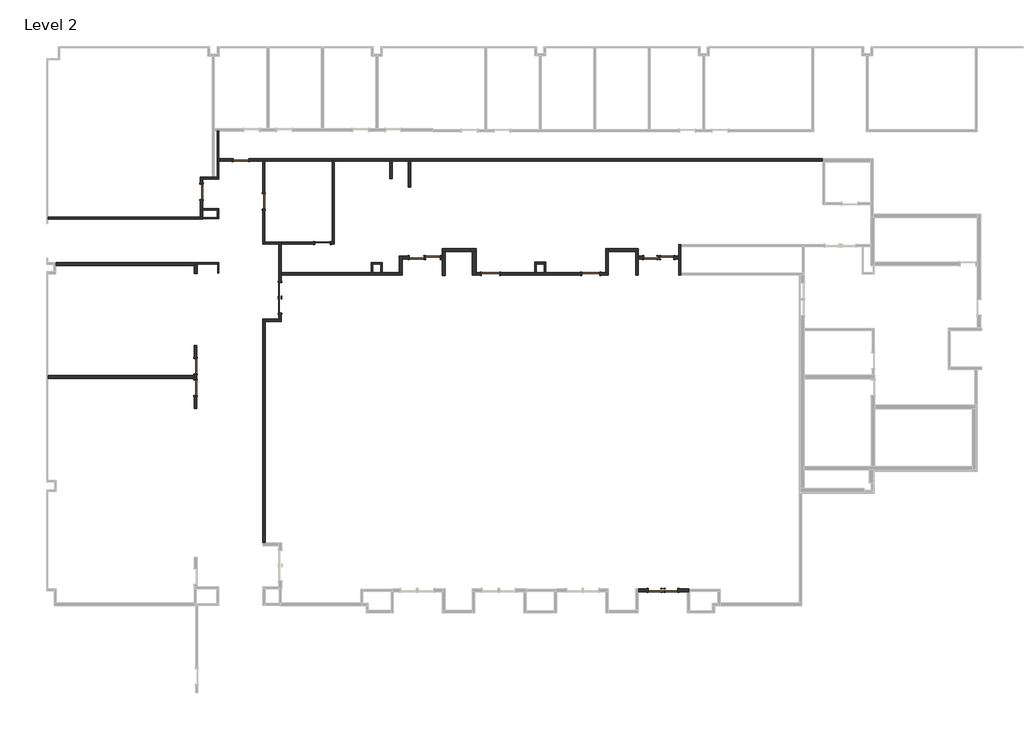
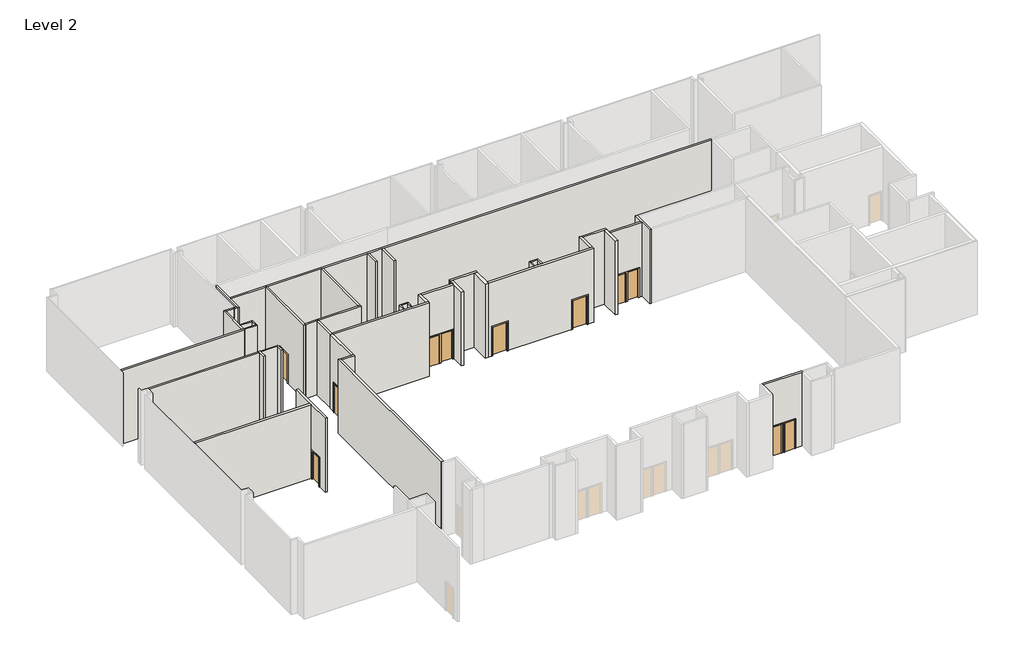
# One storey, part 5 of 9: 45 walls, 16 doors.
"""IFC4 building model written with IfcOpenShell, lengths in millimetres."""

from ifc_helpers import new_model, si_unit, frame, origin, place, context, project, spatial, polyline, outline, extrude, faceted_brep, transform, mapped, element, save
from components import door_7c9e1b45, door_3b0d1d25, door_8244bb97, door_1264ff72, door_5d800252, door_fe0b3fde

model = new_model("IFC4")

# Units and contexts
model_context = context("Model", 3, world=origin())
ifc_project = project(units=[si_unit("LENGTHUNIT", "METRE", prefix="MILLI")], contexts=[model_context])

# Site, building, storey
site = spatial("IfcSite", under=ifc_project)
building = spatial("IfcBuilding", under=site)
storey = spatial("IfcBuildingStorey", under=building, Name="Level 2", Elevation=5486.4)

# Doors
placement = place(None, origin())
door_shape = door_7c9e1b45(model_context)
element("IfcDoor", 1, ObjectType="Single-Flush : 34\" x 84\"", at=placement, inside=storey, context=model_context, shape_type="MappedRepresentation", body=[
    mapped(door_shape, transform((11955.7879373, 26887.2955722, 5486.4), x_axis=(1.0, 0.0, 0.0), y_axis=(0.0, 1.0, 0.0), z_axis=(0.0, 0.0, 1.0))),
])
element("IfcDoor", 2, ObjectType="Single-Flush : 34\" x 84\"", at=placement, inside=storey, context=model_context, shape_type="MappedRepresentation", body=[
    mapped(door_shape, transform((7386.1691873, 31538.6706078, 5486.4), x_axis=(-1.0, 0.0, 0.0), y_axis=(0.0, -1.0, 0.0), z_axis=(0.0, 0.0, 1.0))),
])
door_2_shape = door_3b0d1d25(model_context)
element("IfcDoor", 3, ObjectType="Single-Flush : 34\" x 84\"", at=placement, inside=storey, context=model_context, shape_type="MappedRepresentation", body=[
    mapped(door_2_shape, transform((8663.3129373, 29212.98309, 5486.4), x_axis=(0.0, 1.0, 0.0), y_axis=(-1.0, 0.0, 0.0), z_axis=(0.0, 0.0, 1.0))),
])
element("IfcDoor", 4, ObjectType="Single-Flush : 34\" x 84\"", at=placement, inside=storey, context=model_context, shape_type="MappedRepresentation", body=[
    mapped(door_2_shape, transform((5185.1004373, 29757.4956105, 5486.4), x_axis=(0.0, 1.0, 0.0), y_axis=(-1.0, 0.0, 0.0), z_axis=(0.0, 0.0, 1.0))),
])
door_3_shape = door_8244bb97(model_context)
element("IfcDoor", 5, ObjectType="Single-Flush : 34\" x 84\"", at=placement, inside=storey, context=model_context, shape_type="MappedRepresentation", body=[
    mapped(door_3_shape, transform((9577.7129373, 24247.3466105, 5486.4), x_axis=(0.0, 1.0, 0.0), y_axis=(-1.0, 0.0, 0.0), z_axis=(0.0, 0.0, 1.0))),
])
element("IfcDoor", 6, ObjectType="Single-Flush : 34\" x 84\"", at=placement, inside=storey, context=model_context, shape_type="MappedRepresentation", body=[
    mapped(door_3_shape, transform((4851.7254373, 19996.7518605, 5486.4), x_axis=(0.0, -1.0, 0.0), y_axis=(1.0, 0.0, 0.0), z_axis=(0.0, 0.0, 1.0))),
])
element("IfcDoor", 7, ObjectType="Single-Flush : 34\" x 84\"", at=placement, inside=storey, context=model_context, shape_type="MappedRepresentation", body=[
    mapped(door_3_shape, transform((18127.9879373, 26073.7971107, 5486.4), x_axis=(1.0, 0.0, 0.0), y_axis=(0.0, 1.0, 0.0), z_axis=(0.0, 0.0, 1.0))),
])
element("IfcDoor", 8, ObjectType="Single-Flush : 34\" x 84\"", at=placement, inside=storey, context=model_context, shape_type="MappedRepresentation", body=[
    mapped(door_3_shape, transform((17232.6379373, 26073.7971107, 5486.4), x_axis=(-1.0, 0.0, 0.0), y_axis=(0.0, -1.0, 0.0), z_axis=(0.0, 0.0, 1.0))),
])
element("IfcDoor", 9, ObjectType="Single-Flush : 34\" x 84\"", at=placement, inside=storey, context=model_context, shape_type="MappedRepresentation", body=[
    mapped(door_3_shape, transform((31178.8254373, 26073.7971107, 5486.4), x_axis=(1.0, 0.0, 0.0), y_axis=(0.0, 1.0, 0.0), z_axis=(0.0, 0.0, 1.0))),
])
element("IfcDoor", 10, ObjectType="Single-Flush : 34\" x 84\"", at=placement, inside=storey, context=model_context, shape_type="MappedRepresentation", body=[
    mapped(door_3_shape, transform((30366.8191873, 26073.7971107, 5486.4), x_axis=(-1.0, 0.0, 0.0), y_axis=(0.0, -1.0, 0.0), z_axis=(0.0, 0.0, 1.0))),
])
element("IfcDoor", 11, ObjectType="Single-Flush : 34\" x 84\"", at=placement, inside=storey, context=model_context, shape_type="MappedRepresentation", body=[
    mapped(door_3_shape, transform((30621.6129373, 7440.4206109, 5486.4), x_axis=(-1.0, 0.0, 0.0), y_axis=(0.0, -1.0, 0.0), z_axis=(0.0, 0.0, 1.0))),
])
door_4_shape = door_1264ff72(model_context)
element("IfcDoor", 12, ObjectType="Single-Flush : 34\" x 84\"", at=placement, inside=storey, context=model_context, shape_type="MappedRepresentation", body=[
    mapped(door_4_shape, transform((9577.7129373, 23401.9711102, 5486.4), x_axis=(0.0, -1.0, 0.0), y_axis=(1.0, 0.0, 0.0), z_axis=(0.0, 0.0, 1.0))),
])
element("IfcDoor", 13, ObjectType="Single-Flush : 34\" x 84\"", at=placement, inside=storey, context=model_context, shape_type="MappedRepresentation", body=[
    mapped(door_4_shape, transform((4851.7254373, 18777.5518605, 5486.4), x_axis=(0.0, 1.0, 0.0), y_axis=(-1.0, 0.0, 0.0), z_axis=(0.0, 0.0, 1.0))),
])
element("IfcDoor", 14, ObjectType="Single-Flush : 34\" x 84\"", at=placement, inside=storey, context=model_context, shape_type="MappedRepresentation", body=[
    mapped(door_4_shape, transform((31402.6629373, 7440.4206109, 5486.4), x_axis=(1.0, 0.0, 0.0), y_axis=(0.0, 1.0, 0.0), z_axis=(0.0, 0.0, 1.0))),
])
door_5_shape = door_5d800252(model_context)
element("IfcDoor", 15, ObjectType="Single-Flush : 36\" x 84\"", at=placement, inside=storey, context=model_context, shape_type="MappedRepresentation", body=[
    mapped(door_5_shape, transform((26967.1879373, 25161.7466105, 5486.4), x_axis=(1.0, 0.0, 0.0), y_axis=(0.0, 1.0, 0.0), z_axis=(0.0, 0.0, 1.0))),
])
door_6_shape = door_fe0b3fde(model_context)
element("IfcDoor", 16, ObjectType="Single-Flush : 36\" x 84\"", at=placement, inside=storey, context=model_context, shape_type="MappedRepresentation", body=[
    mapped(door_6_shape, transform((21355.3754373, 25161.7466105, 5486.4), x_axis=(-1.0, 0.0, 0.0), y_axis=(0.0, -1.0, 0.0), z_axis=(0.0, 0.0, 1.0))),
])

# Walls
element("IfcWall", 17, ObjectType="N2A/B", at=placement, inside=storey, context=model_context, shape_type="Brep", body=[
    faceted_brep([(39933.2080086, 31600.5831078, 5486.4), (8663.3129373, 31600.5831078, 5486.4), (8663.3129373, 31600.5831078, 10972.8), (39933.2080086, 31600.5831078, 10972.8), (39933.2080086, 31476.7581078, 5486.4), (39933.2080086, 31476.7581078, 10972.8), (16899.2629343, 31476.7581078, 10972.8), (16759.5629343, 31476.7581078, 10972.8), (15861.0379373, 31476.7581078, 10972.8), (15721.3379373, 31476.7581078, 10972.8), (12627.3004373, 31476.7581078, 10972.8), (12503.4754373, 31476.7581078, 10972.8), (8725.2254373, 31476.7581078, 10972.8), (8663.3129373, 31476.7581078, 10972.8), (8663.3129373, 31476.7581078, 5486.4), (8725.2254373, 31476.7581078, 5486.4), (12503.4754373, 31476.7581078, 5486.4), (12627.3004373, 31476.7581078, 5486.4), (15721.3379373, 31476.7581078, 5486.4), (15861.0379373, 31476.7581078, 5486.4), (16759.5629343, 31476.7581078, 5486.4), (16899.2629343, 31476.7581078, 5486.4)], [[[0, 1, 2, 3]], [[4, 5, 6, 7, 8, 9, 10, 11, 12, 13, 14, 15, 16, 17, 18, 19, 20, 21]], [[1, 0, 4, 21, 20, 19, 18, 17, 16, 15, 14]], [[2, 1, 14, 13]], [[3, 2, 13, 12, 11, 10, 9, 8, 7, 6, 5]], [[0, 3, 5, 4]]]),
])
element("IfcWall", 18, ObjectType="N2A/B", at=placement, inside=storey, context=model_context, shape_type="Brep", body=[
    faceted_brep([(8601.4004373, 31476.7581078, 5486.4), (8601.4004373, 29644.78309, 5486.4), (8601.4004373, 29644.78309, 7620.0), (8601.4004373, 28781.18309, 7620.0), (8601.4004373, 28781.18309, 5486.4), (8601.4004373, 26825.3830722, 5486.4), (8601.4004373, 26825.3830722, 10972.8), (8601.4004373, 31476.7581078, 10972.8), (8725.2254373, 29644.78309, 7620.0), (8725.2254373, 29644.78309, 5486.4), (8725.2254373, 31476.7581078, 5486.4), (8725.2254373, 31476.7581078, 10972.8), (8725.2254373, 26949.2080722, 10972.8), (8725.2254373, 26825.3830722, 10972.8), (8725.2254373, 26825.3830722, 5486.4), (8725.2254373, 26949.2080722, 5486.4), (8725.2254373, 28781.18309, 5486.4), (8725.2254373, 28781.18309, 7620.0), (8663.3129373, 31476.7581078, 5486.4), (8663.3129373, 31476.7581078, 10972.8)], [[[0, 1, 2, 3, 4, 5, 6, 7]], [[8, 9, 10, 11, 12, 13, 14, 15, 16, 17]], [[10, 9, 1, 0, 18]], [[16, 15, 14, 5, 4]], [[7, 6, 13, 12, 11, 19]], [[6, 5, 14, 13]], [[0, 7, 19, 11, 10, 18]], [[2, 1, 9, 8]], [[3, 2, 8, 17]], [[4, 3, 17, 16]]]),
])
element("IfcWall", 19, ObjectType="N2A/B", at=placement, inside=storey, context=model_context, shape_type="Brep", body=[
    faceted_brep([(8725.2254373, 26825.3830722, 5486.4), (9515.8004373, 26825.3830722, 5486.4), (9639.6254373, 26825.3830722, 5486.4), (9639.6254373, 26825.3830722, 10972.8), (9515.8004373, 26825.3830722, 10972.8), (8725.2254373, 26825.3830722, 10972.8), (8725.2254373, 26949.2080722, 5486.4), (8725.2254373, 26949.2080722, 10972.8), (9639.6254373, 26949.2080722, 10972.8), (9639.6254373, 26949.2080722, 5486.4)], [[[0, 1, 2, 3, 4, 5]], [[6, 7, 8, 9]], [[2, 1, 0, 6, 9]], [[5, 4, 3, 8, 7]], [[3, 2, 9, 8]], [[0, 5, 7, 6]]]),
])
element("IfcWall", 20, ObjectType="N2A/B", at=placement, inside=storey, context=model_context, shape_type="Brep", body=[
    faceted_brep([(9515.8004373, 26825.3830722, 5486.4), (9515.8004373, 25161.7466105, 5486.4), (9515.8004373, 25161.7466105, 10972.8), (9515.8004373, 26825.3830722, 10972.8), (9639.6254373, 26825.3830722, 5486.4), (9639.6254373, 26825.3830722, 10972.8), (9639.6254373, 25239.5341105, 10972.8), (9639.6254373, 25161.7466105, 10972.8), (9639.6254373, 25161.7466105, 5486.4), (9639.6254373, 25239.5341105, 5486.4)], [[[0, 1, 2, 3]], [[4, 5, 6, 7, 8, 9]], [[1, 0, 4, 9, 8]], [[2, 1, 8, 7]], [[3, 2, 7, 6, 5]], [[0, 3, 5, 4]]]),
])
element("IfcWall", 21, ObjectType="N3A/B", at=placement, inside=storey, context=model_context, shape_type="Brep", body=[
    faceted_brep([(8756.9754373, 10089.9581107, 5486.4), (8756.9754373, 22478.80811, 5486.4), (8756.9754373, 22634.38311, 5486.4), (8756.9754373, 22634.38311, 10972.8), (8756.9754373, 22478.80811, 10972.8), (8756.9754373, 10089.9581107, 10972.8), (8601.4004373, 10089.9581107, 5486.4), (8601.4004373, 10089.9581107, 10972.8), (8601.4004373, 22634.38311, 10972.8), (8601.4004373, 22634.38311, 5486.4)], [[[0, 1, 2, 3, 4, 5]], [[6, 7, 8, 9]], [[2, 1, 0, 6, 9]], [[5, 4, 3, 8, 7]], [[3, 2, 9, 8]], [[0, 5, 7, 6]]]),
])
element("IfcWall", 22, ObjectType="N3A/B", at=placement, inside=storey, context=model_context, shape_type="Brep", body=[
    faceted_brep([(8756.9754373, 22478.80811, 5486.4), (9655.5004373, 22478.80811, 5486.4), (9655.5004373, 22478.80811, 10972.8), (8756.9754373, 22478.80811, 10972.8), (8756.9754373, 22634.38311, 5486.4), (8756.9754373, 22634.38311, 10972.8), (9499.9254373, 22634.38311, 10972.8), (9655.5004373, 22634.38311, 10972.8), (9655.5004373, 22634.38311, 5486.4), (9499.9254373, 22634.38311, 5486.4)], [[[0, 1, 2, 3]], [[4, 5, 6, 7, 8, 9]], [[1, 0, 4, 9, 8]], [[3, 2, 7, 6, 5]], [[2, 1, 8, 7]], [[0, 3, 5, 4]]]),
])
element("IfcWall", 23, ObjectType="N3A/B", at=placement, inside=storey, context=model_context, shape_type="Brep", body=[
    faceted_brep([(9655.5004373, 25161.7466105, 5486.4), (9655.5004373, 25161.7466105, 10972.8), (9655.5004373, 25083.9591105, 10972.8), (9655.5004373, 22634.38311, 10972.8), (9655.5004373, 22634.38311, 5486.4), (9655.5004373, 22970.1711102, 5486.4), (9655.5004373, 22970.1711102, 7620.0), (9655.5004373, 24679.1466105, 7620.0), (9655.5004373, 24679.1466105, 5486.4), (9655.5004373, 25083.9591105, 5486.4), (9499.9254373, 22634.38311, 5486.4), (9499.9254373, 22634.38311, 10972.8), (9499.9254373, 25161.7466105, 10972.8), (9499.9254373, 25161.7466105, 5486.4), (9499.9254373, 24679.1466105, 5486.4), (9499.9254373, 24679.1466105, 7620.0), (9499.9254373, 22970.1711102, 7620.0), (9499.9254373, 22970.1711102, 5486.4), (9515.8004373, 25161.7466105, 5486.4), (9639.6254373, 25161.7466105, 5486.4), (9515.8004373, 25161.7466105, 10972.8), (9639.6254373, 25161.7466105, 10972.8)], [[[0, 1, 2, 3, 4, 5, 6, 7, 8, 9]], [[10, 11, 12, 13, 14, 15, 16, 17]], [[4, 10, 17, 5]], [[13, 18, 19, 0, 9, 8, 14]], [[1, 0, 19, 18, 13, 12, 20, 21]], [[3, 2, 1, 21, 20, 12, 11]], [[4, 3, 11, 10]], [[15, 14, 8, 7]], [[15, 7, 6, 16]], [[16, 6, 5, 17]]]),
])
element("IfcWall", 24, ObjectType="N3A/B", at=placement, inside=storey, context=model_context, shape_type="Brep", body=[
    faceted_brep([(9655.5004373, 25083.9591105, 5486.4), (16415.0754373, 25083.9591105, 5486.4), (16415.0754373, 25083.9591105, 10972.8), (9655.5004373, 25083.9591105, 10972.8), (9639.6254373, 25239.5341105, 5486.4), (9639.6254373, 25239.5341105, 10972.8), (14697.4004373, 25239.5341105, 10972.8), (14776.7754373, 25239.5341105, 10972.8), (15227.6254373, 25239.5341105, 10972.8), (15307.0004373, 25239.5341105, 10972.8), (16259.5004373, 25239.5341105, 10972.8), (16415.0754373, 25239.5341105, 10972.8), (16415.0754373, 25239.5341105, 5486.4), (16259.5004373, 25239.5341105, 5486.4), (15307.0004373, 25239.5341105, 5486.4), (15227.6254373, 25239.5341105, 5486.4), (14776.7754373, 25239.5341105, 5486.4), (14697.4004373, 25239.5341105, 5486.4), (9655.5004373, 25161.7466105, 5486.4), (9639.6254373, 25161.7466105, 5486.4), (9639.6254373, 25161.7466105, 10972.8), (9655.5004373, 25161.7466105, 10972.8)], [[[0, 1, 2, 3]], [[4, 5, 6, 7, 8, 9, 10, 11, 12, 13, 14, 15, 16, 17]], [[1, 0, 18, 19, 4, 17, 16, 15, 14, 13, 12]], [[3, 2, 11, 10, 9, 8, 7, 6, 5, 20, 21]], [[2, 1, 12, 11]], [[0, 3, 21, 18]], [[21, 20, 19, 18]], [[20, 5, 4, 19]]]),
])
element("IfcWall", 25, ObjectType="N3A/B", at=placement, inside=storey, context=model_context, shape_type="Brep", body=[
    faceted_brep([(16415.0754373, 25239.5341105, 5486.4), (16415.0754373, 25996.0096107, 5486.4), (16415.0754373, 26151.5846107, 5486.4), (16415.0754373, 26151.5846107, 10972.8), (16415.0754373, 25996.0096107, 10972.8), (16415.0754373, 25239.5341105, 10972.8), (16259.5004373, 25239.5341105, 5486.4), (16259.5004373, 25239.5341105, 10972.8), (16259.5004373, 26151.5846107, 10972.8), (16259.5004373, 26151.5846107, 5486.4)], [[[0, 1, 2, 3, 4, 5]], [[6, 7, 8, 9]], [[2, 1, 0, 6, 9]], [[5, 4, 3, 8, 7]], [[3, 2, 9, 8]], [[0, 5, 7, 6]]]),
])
element("IfcWall", 26, ObjectType="N3A/B", at=placement, inside=storey, context=model_context, shape_type="Brep", body=[
    faceted_brep([(18659.8004373, 26418.9831104, 5486.4), (18815.3754373, 26418.9831104, 5486.4), (20333.0254373, 26418.9831104, 5486.4), (20548.9254373, 26418.9831104, 5486.4), (20548.9254373, 26418.9831104, 10972.8), (20333.0254373, 26418.9831104, 10972.8), (18815.3754373, 26418.9831104, 10972.8), (18659.8004373, 26418.9831104, 10972.8), (18659.8004373, 26574.5581104, 5486.4), (18659.8004373, 26574.5581104, 10972.8), (20548.9254373, 26574.5581104, 10972.8), (20548.9254373, 26574.5581104, 5486.4)], [[[0, 1, 2, 3, 4, 5, 6, 7]], [[8, 9, 10, 11]], [[3, 2, 1, 0, 8, 11]], [[7, 6, 5, 4, 10, 9]], [[0, 7, 9, 8]], [[4, 3, 11, 10]]]),
])
element("IfcWall", 27, ObjectType="N3A/B", at=placement, inside=storey, context=model_context, shape_type="Brep", body=[
    faceted_brep([(18659.8004373, 26418.9831104, 5486.4), (18659.8004373, 26151.5846107, 5486.4), (18659.8004373, 25996.0096107, 5486.4), (18659.8004373, 25074.3706104, 5486.4), (18659.8004373, 25074.3706104, 10972.8), (18659.8004373, 25996.0096107, 10972.8), (18659.8004373, 26151.5846107, 10972.8), (18659.8004373, 26418.9831104, 10972.8), (18815.3754373, 26418.9831104, 5486.4), (18815.3754373, 26418.9831104, 10972.8), (18815.3754373, 25074.3706104, 10972.8), (18815.3754373, 25074.3706104, 5486.4)], [[[0, 1, 2, 3, 4, 5, 6, 7]], [[8, 9, 10, 11]], [[3, 2, 1, 0, 8, 11]], [[4, 3, 11, 10]], [[7, 6, 5, 4, 10, 9]], [[0, 7, 9, 8]]]),
])
element("IfcWall", 28, ObjectType="N3A/B", at=placement, inside=storey, context=model_context, shape_type="SweptSolid", body=[
    extrude(outline(polyline([(5486.4, 16415.0754373), (5486.4, 16800.8379373), (7620.0, 16800.8379373), (7620.0, 17664.4379373), (5486.4, 17664.4379373), (5486.4, 17696.1879373), (7620.0, 17696.1879373), (7620.0, 18559.7879373), (5486.4, 18559.7879373), (5486.4, 18659.8004373), (10972.8, 18659.8004373), (10972.8, 16415.0754373), (5486.4, 16415.0754373)])), frame((0.0, 25996.0096107, 0.0), z_axis=(0.0, 1.0, 0.0), x_axis=(0.0, 0.0, 1.0)), (0.0, 0.0, 1.0), 155.575),
])
element("IfcWall", 29, ObjectType="N3A/B", at=placement, inside=storey, context=model_context, shape_type="SweptSolid", body=[
    extrude(outline(polyline([(4773.9379373, 19309.3643605), (-3425.4995627, 19309.3643605), (-3425.4995627, 19464.9393605), (4773.9379373, 19464.9393605), (4773.9379373, 19309.3643605)])), frame((0.0, 0.0, 5486.4), z_axis=(0.0, 0.0, 1.0), x_axis=(1.0, 0.0, 0.0)), (0.0, 0.0, 1.0), 5486.4),
])
element("IfcWall", 30, ObjectType="N3A/B", at=placement, inside=storey, context=model_context, shape_type="Brep", body=[
    faceted_brep([(4773.9379373, 19564.9518605, 5486.4), (4773.9379373, 19464.9393605, 5486.4), (4773.9379373, 19309.3643605, 5486.4), (4773.9379373, 19209.3518605, 5486.4), (4773.9379373, 19209.3518605, 7620.0), (4773.9379373, 18345.7518605, 7620.0), (4773.9379373, 18345.7518605, 5486.4), (4773.9379373, 17624.0253165, 5486.4), (4773.9379373, 17624.0253165, 10972.8), (4773.9379373, 19309.3643605, 10972.8), (4773.9379373, 19464.9393605, 10972.8), (4773.9379373, 21141.9253165, 10972.8), (4773.9379373, 21141.9253165, 5486.4), (4773.9379373, 20428.5518605, 5486.4), (4773.9379373, 20428.5518605, 7620.0), (4773.9379373, 19564.9518605, 7620.0), (4929.5129373, 19209.3518605, 7620.0), (4929.5129373, 19209.3518605, 5486.4), (4929.5129373, 19564.9518605, 5486.4), (4929.5129373, 19564.9518605, 7620.0), (4929.5129373, 20428.5518605, 7620.0), (4929.5129373, 20428.5518605, 5486.4), (4929.5129373, 21141.9253165, 5486.4), (4929.5129373, 21141.9253165, 10972.8), (4929.5129373, 17624.0253165, 10972.8), (4929.5129373, 17624.0253165, 5486.4), (4929.5129373, 18345.7518605, 5486.4), (4929.5129373, 18345.7518605, 7620.0)], [[[0, 1, 2, 3, 4, 5, 6, 7, 8, 9, 10, 11, 12, 13, 14, 15]], [[16, 17, 18, 19, 20, 21, 22, 23, 24, 25, 26, 27]], [[18, 17, 3, 2, 1, 0]], [[13, 12, 22, 21]], [[26, 25, 7, 6]], [[8, 7, 25, 24]], [[11, 10, 9, 8, 24, 23]], [[12, 11, 23, 22]], [[19, 18, 0, 15]], [[20, 19, 15, 14]], [[21, 20, 14, 13]], [[4, 3, 17, 16]], [[5, 4, 16, 27]], [[6, 5, 27, 26]]]),
])
element("IfcWall", 31, ObjectType="N3A/B", at=placement, inside=storey, context=model_context, shape_type="Brep", body=[
    faceted_brep([(4937.4504373, 25178.7871767, 5486.4), (4937.4504373, 25704.6081105, 5486.4), (4937.4504373, 25783.9831105, 5486.4), (4937.4504373, 25788.7456105, 5486.4), (4937.4504373, 25788.7456105, 10972.8), (4937.4504373, 25783.9831105, 10972.8), (4937.4504373, 25704.6081105, 10972.8), (4937.4504373, 25178.7871767, 10972.8), (4781.8754373, 25178.7871767, 5486.4), (4781.8754373, 25178.7871767, 10972.8), (4781.8754373, 25633.1706105, 10972.8), (4781.8754373, 25788.7456105, 10972.8), (4781.8754373, 25788.7456105, 5486.4), (4781.8754373, 25633.1706105, 5486.4)], [[[0, 1, 2, 3, 4, 5, 6, 7]], [[8, 9, 10, 11, 12, 13]], [[3, 2, 1, 0, 8, 13, 12]], [[7, 6, 5, 4, 11, 10, 9]], [[0, 7, 9, 8]], [[4, 3, 12, 11]]]),
])
element("IfcWall", 32, ObjectType="N3A/B", at=placement, inside=storey, context=model_context, shape_type="SweptSolid", body=[
    extrude(outline(polyline([(4781.8754373, 25633.1706105), (-2966.7120627, 25633.1706105), (-2966.7120627, 25788.7456105), (4781.8754373, 25788.7456105), (4781.8754373, 25633.1706105)])), frame((0.0, 0.0, 5486.4), z_axis=(0.0, 0.0, 1.0), x_axis=(1.0, 0.0, 0.0)), (0.0, 0.0, 1.0), 5486.4),
])
element("IfcWall", 33, ObjectType="N2A/B", at=placement, inside=storey, context=model_context, shape_type="Brep", body=[
    faceted_brep([(-3425.4995627, 28222.3831105, 5486.4), (5247.0129373, 28222.3831105, 5486.4), (5247.0129373, 28222.3831105, 10972.8), (-3425.4995627, 28222.3831105, 10972.8), (-3425.4995627, 28346.2081105, 5486.4), (-3425.4995627, 28346.2081105, 10972.8), (5123.1879373, 28346.2081105, 10972.8), (5247.0129373, 28346.2081105, 10972.8), (5247.0129373, 28346.2081105, 5486.4), (5123.1879373, 28346.2081105, 5486.4), (5247.0129373, 28323.9831105, 5486.4), (5247.0129373, 28244.6081105, 5486.4), (5247.0129373, 28244.6081105, 10972.8), (5247.0129373, 28323.9831105, 10972.8)], [[[0, 1, 2, 3]], [[4, 5, 6, 7, 8, 9]], [[1, 0, 4, 9, 8, 10, 11]], [[3, 2, 12, 13, 7, 6, 5]], [[2, 1, 11, 10, 8, 7, 13, 12]], [[0, 3, 5, 4]]]),
])
element("IfcWall", 34, ObjectType="N2A/B", at=placement, inside=storey, context=model_context, shape_type="Brep", body=[
    faceted_brep([(5247.0129373, 30189.2956105, 7620.0), (5247.0129373, 30189.2956105, 5486.4), (5247.0129373, 30457.5831105, 5486.4), (5247.0129373, 30581.4081105, 5486.4), (5247.0129373, 30581.4081105, 10972.8), (5247.0129373, 30457.5831105, 10972.8), (5247.0129373, 28817.6956105, 10972.8), (5247.0129373, 28738.3206105, 10972.8), (5247.0129373, 28346.2081105, 10972.8), (5247.0129373, 28346.2081105, 5486.4), (5247.0129373, 28738.3206105, 5486.4), (5247.0129373, 28817.6956105, 5486.4), (5247.0129373, 29325.6956105, 5486.4), (5247.0129373, 29325.6956105, 7620.0), (5123.1879373, 30581.4081105, 5486.4), (5123.1879373, 30189.2956105, 5486.4), (5123.1879373, 30189.2956105, 7620.0), (5123.1879373, 29325.6956105, 7620.0), (5123.1879373, 29325.6956105, 5486.4), (5123.1879373, 28346.2081105, 5486.4), (5123.1879373, 28346.2081105, 10972.8), (5123.1879373, 30581.4081105, 10972.8)], [[[0, 1, 2, 3, 4, 5, 6, 7, 8, 9, 10, 11, 12, 13]], [[14, 15, 16, 17, 18, 19, 20, 21]], [[3, 2, 1, 15, 14]], [[12, 11, 10, 9, 19, 18]], [[8, 7, 6, 5, 4, 21, 20]], [[4, 3, 14, 21]], [[9, 8, 20, 19]], [[16, 15, 1, 0]], [[17, 16, 0, 13]], [[18, 17, 13, 12]]]),
])
element("IfcWall", 35, ObjectType="N2A/B", at=placement, inside=storey, context=model_context, shape_type="Brep", body=[
    faceted_brep([(5247.0129373, 30457.5831105, 5486.4), (5794.7004373, 30457.5831105, 5486.4), (5794.7004373, 30457.5831105, 10972.8), (5247.0129373, 30457.5831105, 10972.8), (5247.0129373, 30581.4081105, 5486.4), (5247.0129373, 30581.4081105, 10972.8), (5794.7004373, 30581.4081105, 10972.8), (5794.7004373, 30581.4081105, 5486.4), (5794.7004373, 30573.4706105, 5486.4), (5794.7004373, 30465.5206105, 5486.4), (5794.7004373, 30573.4706105, 10972.8), (5794.7004373, 30465.5206105, 10972.8)], [[[0, 1, 2, 3]], [[4, 5, 6, 7]], [[1, 0, 4, 7, 8, 9]], [[2, 1, 9, 8, 7, 6, 10, 11]], [[3, 2, 11, 10, 6, 5]], [[0, 3, 5, 4]]]),
])
element("IfcWall", 36, ObjectType="N3A/B", at=placement, inside=storey, context=model_context, shape_type="Brep", body=[
    faceted_brep([(20548.9254373, 25083.9591105, 5486.4), (20847.3754373, 25083.9591105, 5486.4), (20847.3754373, 25083.9591105, 7620.0), (21863.3754373, 25083.9591105, 7620.0), (21863.3754373, 25083.9591105, 5486.4), (26459.1879373, 25083.9591105, 5486.4), (26459.1879373, 25083.9591105, 7620.0), (27475.1879373, 25083.9591105, 7620.0), (27475.1879373, 25083.9591105, 5486.4), (27959.3754373, 25083.9591105, 5486.4), (27959.3754373, 25083.9591105, 10972.8), (20548.9254373, 25083.9591105, 10972.8), (20847.3754373, 25239.5341105, 7620.0), (20847.3754373, 25239.5341105, 5486.4), (20548.9254373, 25239.5341105, 5486.4), (20548.9254373, 25239.5341105, 10972.8), (23841.3818654, 25239.5341105, 10972.8), (23920.7568654, 25239.5341105, 10972.8), (24371.6068654, 25239.5341105, 10972.8), (24450.9818654, 25239.5341105, 10972.8), (27803.8004373, 25239.5341105, 10972.8), (27959.3754373, 25239.5341105, 10972.8), (27959.3754373, 25239.5341105, 5486.4), (27803.8004373, 25239.5341105, 5486.4), (27475.1879373, 25239.5341105, 5486.4), (27475.1879373, 25239.5341105, 7620.0), (26459.1879373, 25239.5341105, 7620.0), (26459.1879373, 25239.5341105, 5486.4), (24450.9818654, 25239.5341105, 5486.4), (24371.6068654, 25239.5341105, 5486.4), (23920.7568654, 25239.5341105, 5486.4), (23841.3818654, 25239.5341105, 5486.4), (21863.3754373, 25239.5341105, 5486.4), (21863.3754373, 25239.5341105, 7620.0)], [[[0, 1, 2, 3, 4, 5, 6, 7, 8, 9, 10, 11]], [[12, 13, 14, 15, 16, 17, 18, 19, 20, 21, 22, 23, 24, 25, 26, 27, 28, 29, 30, 31, 32, 33]], [[9, 8, 24, 23, 22]], [[14, 13, 1, 0]], [[32, 31, 30, 29, 28, 27, 5, 4]], [[11, 10, 21, 20, 19, 18, 17, 16, 15]], [[10, 9, 22, 21]], [[0, 11, 15, 14]], [[25, 24, 8, 7]], [[26, 25, 7, 6]], [[27, 26, 6, 5]], [[2, 1, 13, 12]], [[3, 2, 12, 33]], [[4, 3, 33, 32]]]),
])
element("IfcWall", 37, ObjectType="N3A/B", at=placement, inside=storey, context=model_context, shape_type="Brep", body=[
    faceted_brep([(27959.3754373, 25239.5341105, 5486.4), (27959.3754373, 26418.98311, 5486.4), (27959.3754373, 26574.55811, 5486.4), (27959.3754373, 26574.55811, 10972.8), (27959.3754373, 26418.98311, 10972.8), (27959.3754373, 25239.5341105, 10972.8), (27803.8004373, 25239.5341105, 5486.4), (27803.8004373, 25239.5341105, 10972.8), (27803.8004373, 26574.55811, 10972.8), (27803.8004373, 26574.55811, 5486.4)], [[[0, 1, 2, 3, 4, 5]], [[6, 7, 8, 9]], [[2, 1, 0, 6, 9]], [[5, 4, 3, 8, 7]], [[3, 2, 9, 8]], [[0, 5, 7, 6]]]),
])
element("IfcWall", 38, ObjectType="N3A/B", at=placement, inside=storey, context=model_context, shape_type="Brep", body=[
    faceted_brep([(27959.3754373, 26418.98311, 5486.4), (29477.0254373, 26418.98311, 5486.4), (29632.6004373, 26418.98311, 5486.4), (29632.6004373, 26418.98311, 10972.8), (29477.0254373, 26418.98311, 10972.8), (27959.3754373, 26418.98311, 10972.8), (27959.3754373, 26574.55811, 5486.4), (27959.3754373, 26574.55811, 10972.8), (29632.6004373, 26574.55811, 10972.8), (29632.6004373, 26574.55811, 5486.4)], [[[0, 1, 2, 3, 4, 5]], [[6, 7, 8, 9]], [[2, 1, 0, 6, 9]], [[5, 4, 3, 8, 7]], [[3, 2, 9, 8]], [[0, 5, 7, 6]]]),
])
element("IfcWall", 39, ObjectType="N3A/B", at=placement, inside=storey, context=model_context, shape_type="Brep", body=[
    faceted_brep([(29477.0254373, 26418.98311, 5486.4), (29477.0254373, 25083.9591105, 5486.4), (29477.0254373, 25083.9591105, 10972.8), (29477.0254373, 26418.98311, 10972.8), (29632.6004373, 26418.98311, 5486.4), (29632.6004373, 26418.98311, 10972.8), (29632.6004373, 26151.5846107, 10972.8), (29632.6004373, 25996.0096107, 10972.8), (29632.6004373, 25083.9591105, 10972.8), (29632.6004373, 25083.9591105, 5486.4), (29632.6004373, 25996.0096107, 5486.4), (29632.6004373, 26151.5846107, 5486.4)], [[[0, 1, 2, 3]], [[4, 5, 6, 7, 8, 9, 10, 11]], [[1, 0, 4, 11, 10, 9]], [[2, 1, 9, 8]], [[3, 2, 8, 7, 6, 5]], [[0, 3, 5, 4]]]),
])
element("IfcWall", 40, ObjectType="N3A/B", at=placement, inside=storey, context=model_context, shape_type="Brep", body=[
    faceted_brep([(32437.7129373, 7362.6331109, 5486.4), (32437.7129373, 7362.6331109, 10972.8), (32375.8004373, 7362.6331109, 10972.8), (29632.6004373, 7362.6331109, 10972.8), (29632.6004373, 7362.6331109, 5486.4), (30189.8129373, 7362.6331109, 5486.4), (30189.8129373, 7362.6331109, 7620.0), (31834.4629373, 7362.6331109, 7620.0), (31834.4629373, 7362.6331109, 5486.4), (32375.8004373, 7362.6331109, 5486.4), (29632.6004373, 7518.2081109, 5486.4), (29632.6004373, 7518.2081109, 10972.8), (32437.7129373, 7518.2081109, 10972.8), (32437.7129373, 7518.2081109, 5486.4), (31834.4629373, 7518.2081109, 5486.4), (31834.4629373, 7518.2081109, 7620.0), (30189.8129373, 7518.2081109, 7620.0), (30189.8129373, 7518.2081109, 5486.4), (32437.7129373, 7502.3331109, 5486.4), (32437.7129373, 7378.5081109, 5486.4), (32437.7129373, 7502.3331109, 10972.8), (32437.7129373, 7378.5081109, 10972.8)], [[[0, 1, 2, 3, 4, 5, 6, 7, 8, 9]], [[10, 11, 12, 13, 14, 15, 16, 17]], [[4, 10, 17, 5]], [[13, 18, 19, 0, 9, 8, 14]], [[1, 0, 19, 18, 13, 12, 20, 21]], [[3, 2, 1, 21, 20, 12, 11]], [[4, 3, 11, 10]], [[6, 5, 17, 16]], [[6, 16, 15, 7]], [[7, 15, 14, 8]]]),
])
element("IfcWall", 41, ObjectType="N3A/B", at=placement, inside=storey, context=model_context, shape_type="SweptSolid", body=[
    extrude(outline(polyline([(7620.0, 29935.0191873), (7620.0, 31610.6254373), (5486.4, 31610.6254373), (5486.4, 31878.9129373), (10972.8, 31878.9129373), (10972.8, 29632.6004373), (5486.4, 29632.6004373), (5486.4, 29935.0191873), (7620.0, 29935.0191873)])), frame((0.0, 25996.0096107, 0.0), z_axis=(0.0, 1.0, 0.0), x_axis=(0.0, 0.0, 1.0)), (0.0, 0.0, 1.0), 155.575),
])
element("IfcWall", 42, ObjectType="F1B", at=placement, inside=storey, context=model_context, shape_type="Brep", body=[
    faceted_brep([(14776.7754373, 25239.5341105, 5486.4), (14776.7754373, 25704.6081106, 5486.4), (14776.7754373, 25783.9831106, 5486.4), (14776.7754373, 25783.9831106, 10972.8), (14776.7754373, 25704.6081106, 10972.8), (14776.7754373, 25239.5341105, 10972.8), (14697.4004373, 25239.5341105, 5486.4), (14697.4004373, 25239.5341105, 10972.8), (14697.4004373, 25783.9831106, 10972.8), (14697.4004373, 25783.9831106, 5486.4)], [[[0, 1, 2, 3, 4, 5]], [[6, 7, 8, 9]], [[2, 1, 0, 6, 9]], [[5, 4, 3, 8, 7]], [[3, 2, 9, 8]], [[0, 5, 7, 6]]]),
])
element("IfcWall", 43, ObjectType="F1B", at=placement, inside=storey, context=model_context, shape_type="Brep", body=[
    faceted_brep([(14776.7754373, 25704.6081106, 5486.4), (15227.6254373, 25704.6081106, 5486.4), (15307.0004373, 25704.6081106, 5486.4), (15307.0004373, 25704.6081106, 10972.8), (15227.6254373, 25704.6081106, 10972.8), (14776.7754373, 25704.6081106, 10972.8), (14776.7754373, 25783.9831106, 5486.4), (14776.7754373, 25783.9831106, 10972.8), (15307.0004373, 25783.9831106, 10972.8), (15307.0004373, 25783.9831106, 5486.4)], [[[0, 1, 2, 3, 4, 5]], [[6, 7, 8, 9]], [[2, 1, 0, 6, 9]], [[5, 4, 3, 8, 7]], [[3, 2, 9, 8]], [[0, 5, 7, 6]]]),
])
element("IfcWall", 44, ObjectType="F1B", at=placement, inside=storey, context=model_context, shape_type="SweptSolid", body=[
    extrude(outline(polyline([(15227.6254373, 25239.5341105), (15227.6254373, 25704.6081106), (15307.0004373, 25704.6081106), (15307.0004373, 25239.5341105), (15227.6254373, 25239.5341105)])), frame((0.0, 0.0, 5486.4), z_axis=(0.0, 0.0, 1.0), x_axis=(1.0, 0.0, 0.0)), (0.0, 0.0, 1.0), 5486.4),
])
element("IfcWall", 45, ObjectType="F1B", at=placement, inside=storey, context=model_context, shape_type="Brep", body=[
    faceted_brep([(6163.0004373, 25206.1331105, 5486.4), (6163.0004373, 25783.9831105, 5486.4), (6163.0004373, 25783.9831105, 10972.8), (6163.0004373, 25206.1331105, 10972.8), (6083.6254373, 25206.1331105, 5486.4), (6083.6254373, 25206.1331105, 10972.8), (6083.6254373, 25704.6081105, 10972.8), (6083.6254373, 25783.9831105, 10972.8), (6083.6254373, 25783.9831105, 5486.4), (6083.6254373, 25704.6081105, 5486.4)], [[[0, 1, 2, 3]], [[4, 5, 6, 7, 8, 9]], [[1, 0, 4, 9, 8]], [[3, 2, 7, 6, 5]], [[0, 3, 5, 4]], [[2, 1, 8, 7]]]),
])
element("IfcWall", 46, ObjectType="F1B", at=placement, inside=storey, context=model_context, shape_type="SweptSolid", body=[
    extrude(outline(polyline([(4937.4504373, 25783.9831105), (6083.6254373, 25783.9831105), (6083.6254373, 25704.6081105), (4937.4504373, 25704.6081105), (4937.4504373, 25783.9831105)])), frame((0.0, 0.0, 5486.4), z_axis=(0.0, 0.0, 1.0), x_axis=(1.0, 0.0, 0.0)), (0.0, 0.0, 1.0), 5486.4),
])
element("IfcWall", 47, ObjectType="F1B", at=placement, inside=storey, context=model_context, shape_type="Brep", body=[
    faceted_brep([(5247.0129373, 28244.6081105, 5486.4), (6148.7129373, 28244.6081105, 5486.4), (6148.7129373, 28244.6081105, 10972.8), (5247.0129373, 28244.6081105, 10972.8), (5247.0129373, 28323.9831105, 5486.4), (5247.0129373, 28323.9831105, 10972.8), (6069.3379373, 28323.9831105, 10972.8), (6148.7129373, 28323.9831105, 10972.8), (6148.7129373, 28323.9831105, 5486.4), (6069.3379373, 28323.9831105, 5486.4)], [[[0, 1, 2, 3]], [[4, 5, 6, 7, 8, 9]], [[1, 0, 4, 9, 8]], [[3, 2, 7, 6, 5]], [[2, 1, 8, 7]], [[0, 3, 5, 4]]]),
])
element("IfcWall", 48, ObjectType="F1B", at=placement, inside=storey, context=model_context, shape_type="Brep", body=[
    faceted_brep([(6148.7129373, 28323.9831105, 5486.4), (6148.7129373, 28817.6956105, 5486.4), (6148.7129373, 28817.6956105, 10972.8), (6148.7129373, 28323.9831105, 10972.8), (6069.3379373, 28323.9831105, 5486.4), (6069.3379373, 28323.9831105, 10972.8), (6069.3379373, 28738.3206105, 10972.8), (6069.3379373, 28817.6956105, 10972.8), (6069.3379373, 28817.6956105, 5486.4), (6069.3379373, 28738.3206105, 5486.4)], [[[0, 1, 2, 3]], [[4, 5, 6, 7, 8, 9]], [[1, 0, 4, 9, 8]], [[3, 2, 7, 6, 5]], [[2, 1, 8, 7]], [[0, 3, 5, 4]]]),
])
element("IfcWall", 49, ObjectType="F1B", at=placement, inside=storey, context=model_context, shape_type="SweptSolid", body=[
    extrude(outline(polyline([(5247.0129373, 28817.6956105), (6069.3379373, 28817.6956105), (6069.3379373, 28738.3206105), (5247.0129373, 28738.3206105), (5247.0129373, 28817.6956105)])), frame((0.0, 0.0, 5486.4), z_axis=(0.0, 0.0, 1.0), x_axis=(1.0, 0.0, 0.0)), (0.0, 0.0, 1.0), 5486.4),
])
element("IfcWall", 50, ObjectType="F1B", at=placement, inside=storey, context=model_context, shape_type="Brep", body=[
    faceted_brep([(23920.7568654, 25239.5341105, 5486.4), (23920.7568654, 25717.3716105, 5486.4), (23920.7568654, 25825.3216105, 5486.4), (23920.7568654, 25825.3216105, 10972.8), (23920.7568654, 25717.3716105, 10972.8), (23920.7568654, 25239.5341105, 10972.8), (23841.3818654, 25239.5341105, 5486.4), (23841.3818654, 25239.5341105, 10972.8), (23841.3818654, 25825.3216105, 10972.8), (23841.3818654, 25825.3216105, 5486.4)], [[[0, 1, 2, 3, 4, 5]], [[6, 7, 8, 9]], [[2, 1, 0, 6, 9]], [[5, 4, 3, 8, 7]], [[3, 2, 9, 8]], [[0, 5, 7, 6]]]),
])
element("IfcWall", 51, ObjectType="F1B", at=placement, inside=storey, context=model_context, shape_type="Brep", body=[
    faceted_brep([(24450.9818654, 25239.5341105, 5486.4), (24450.9818654, 25825.3216105, 5486.4), (24450.9818654, 25825.3216105, 10972.8), (24450.9818654, 25239.5341105, 10972.8), (24371.6068654, 25239.5341105, 5486.4), (24371.6068654, 25239.5341105, 10972.8), (24371.6068654, 25717.3716105, 10972.8), (24371.6068654, 25825.3216105, 10972.8), (24371.6068654, 25825.3216105, 5486.4), (24371.6068654, 25717.3716105, 5486.4)], [[[0, 1, 2, 3]], [[4, 5, 6, 7, 8, 9]], [[1, 0, 4, 9, 8]], [[3, 2, 7, 6, 5]], [[2, 1, 8, 7]], [[0, 3, 5, 4]]]),
])
element("IfcWall", 52, ObjectType="F1C", at=placement, inside=storey, context=model_context, shape_type="SweptSolid", body=[
    extrude(outline(polyline([(24371.6068654, 25717.3716105), (23920.7568654, 25717.3716105), (23920.7568654, 25825.3216105), (24371.6068654, 25825.3216105), (24371.6068654, 25717.3716105)])), frame((0.0, 0.0, 5486.4), z_axis=(0.0, 0.0, 1.0), x_axis=(1.0, 0.0, 0.0)), (0.0, 0.0, 1.0), 5486.4),
])
element("IfcWall", 53, ObjectType="F2A", at=placement, inside=storey, context=model_context, shape_type="Brep", body=[
    faceted_brep([(6163.0004373, 30465.5206105, 5486.4), (6163.0004373, 31476.7581078, 5486.4), (6163.0004373, 31600.5831078, 5486.4), (6163.0004373, 33137.2831105, 5486.4), (6163.0004373, 33137.2831105, 10972.8), (6163.0004373, 31600.5831078, 10972.8), (6163.0004373, 31476.7581078, 10972.8), (6163.0004373, 30465.5206105, 10972.8), (6055.0504373, 30465.5206105, 5486.4), (6055.0504373, 30465.5206105, 10972.8), (6055.0504373, 30573.4706105, 10972.8), (6055.0504373, 33137.2831105, 10972.8), (6055.0504373, 33137.2831105, 5486.4), (6055.0504373, 30573.4706105, 5486.4)], [[[0, 1, 2, 3, 4, 5, 6, 7]], [[8, 9, 10, 11, 12, 13]], [[3, 2, 1, 0, 8, 13, 12]], [[7, 6, 5, 4, 11, 10, 9]], [[0, 7, 9, 8]], [[4, 3, 12, 11]]]),
])
element("IfcWall", 54, ObjectType="F2A", at=placement, inside=storey, context=model_context, shape_type="Brep", body=[
    faceted_brep([(6055.0504373, 30573.4706105, 5486.4), (5904.2565091, 30573.4706105, 5486.4), (5796.3065091, 30573.4706105, 5486.4), (5794.7004373, 30573.4706105, 5486.4), (5794.7004373, 30573.4706105, 10972.8), (5796.3065091, 30573.4706105, 10972.8), (5904.2565091, 30573.4706105, 10972.8), (6055.0504373, 30573.4706105, 10972.8), (6055.0504373, 30465.5206105, 5486.4), (6055.0504373, 30465.5206105, 10972.8), (5794.7004373, 30465.5206105, 10972.8), (5794.7004373, 30465.5206105, 5486.4)], [[[0, 1, 2, 3, 4, 5, 6, 7]], [[8, 9, 10, 11]], [[3, 2, 1, 0, 8, 11]], [[4, 3, 11, 10]], [[7, 6, 5, 4, 10, 9]], [[0, 7, 9, 8]]]),
])
element("IfcWall", 55, ObjectType="N11C2", at=placement, inside=storey, context=model_context, shape_type="SweptSolid", body=[
    extrude(outline(polyline([(15721.3379373, 30486.1581093), (15721.3379373, 31476.7581078), (15861.0379373, 31476.7581078), (15861.0379373, 30486.1581093), (15721.3379373, 30486.1581093)])), frame((0.0, 0.0, 5486.4), z_axis=(0.0, 0.0, 1.0), x_axis=(1.0, 0.0, 0.0)), (0.0, 0.0, 1.0), 5486.4),
])
element("IfcWall", 56, ObjectType="N11C2", at=placement, inside=storey, context=model_context, shape_type="SweptSolid", body=[
    extrude(outline(polyline([(16759.5629343, 30025.7831092), (16759.5629343, 31476.7581078), (16899.2629343, 31476.7581078), (16899.2629343, 30025.7831092), (16759.5629343, 30025.7831092)])), frame((0.0, 0.0, 5486.4), z_axis=(0.0, 0.0, 1.0), x_axis=(1.0, 0.0, 0.0)), (0.0, 0.0, 1.0), 5486.4),
])
element("IfcWall", 57, ObjectType="N1A", at=placement, inside=storey, context=model_context, shape_type="Brep", body=[
    faceted_brep([(6954.3691873, 31600.5831078, 7620.0), (6954.3691873, 31600.5831078, 5486.4), (6163.0004373, 31600.5831078, 5486.4), (6163.0004373, 31600.5831078, 10972.8), (8663.3129373, 31600.5831078, 10972.8), (8663.3129373, 31600.5831078, 5486.4), (7817.9691873, 31600.5831078, 5486.4), (7817.9691873, 31600.5831078, 7620.0), (6163.0004373, 31476.7581078, 5486.4), (6954.3691873, 31476.7581078, 5486.4), (6954.3691873, 31476.7581078, 7620.0), (7817.9691873, 31476.7581078, 7620.0), (7817.9691873, 31476.7581078, 5486.4), (8601.4004373, 31476.7581078, 5486.4), (8663.3129373, 31476.7581078, 5486.4), (8663.3129373, 31476.7581078, 10972.8), (8601.4004373, 31476.7581078, 10972.8), (6163.0004373, 31476.7581078, 10972.8)], [[[0, 1, 2, 3, 4, 5, 6, 7]], [[8, 9, 10, 11, 12, 13, 14, 15, 16, 17]], [[2, 1, 9, 8]], [[6, 5, 14, 13, 12]], [[4, 3, 17, 16, 15]], [[5, 4, 15, 14]], [[3, 2, 8, 17]], [[10, 9, 1, 0]], [[11, 10, 0, 7]], [[12, 11, 7, 6]]]),
])
element("IfcWall", 58, ObjectType="N1A", at=placement, inside=storey, context=model_context, shape_type="Brep", body=[
    faceted_brep([(12387.5879373, 26825.3830722, 7620.0), (12387.5879373, 26825.3830722, 5486.4), (12627.3004373, 26825.3830722, 5486.4), (12627.3004373, 26825.3830722, 10972.8), (9639.6254373, 26825.3830722, 10972.8), (9639.6254373, 26825.3830722, 5486.4), (11523.9879373, 26825.3830722, 5486.4), (11523.9879373, 26825.3830722, 7620.0), (12627.3004373, 26949.2080722, 5486.4), (12503.4754373, 26949.2080722, 5486.4), (12387.5879373, 26949.2080722, 5486.4), (12387.5879373, 26949.2080722, 7620.0), (11523.9879373, 26949.2080722, 7620.0), (11523.9879373, 26949.2080722, 5486.4), (9639.6254373, 26949.2080722, 5486.4), (9639.6254373, 26949.2080722, 10972.8), (12503.4754373, 26949.2080722, 10972.8), (12627.3004373, 26949.2080722, 10972.8)], [[[0, 1, 2, 3, 4, 5, 6, 7]], [[8, 9, 10, 11, 12, 13, 14, 15, 16, 17]], [[2, 1, 10, 9, 8]], [[6, 5, 14, 13]], [[4, 3, 17, 16, 15]], [[3, 2, 8, 17]], [[5, 4, 15, 14]], [[11, 10, 1, 0]], [[12, 11, 0, 7]], [[13, 12, 7, 6]]]),
])
element("IfcWall", 59, ObjectType="N1A", at=placement, inside=storey, context=model_context, shape_type="SweptSolid", body=[
    extrude(outline(polyline([(12627.3004373, 31476.7581078), (12627.3004373, 26949.2080722), (12503.4754373, 26949.2080722), (12503.4754373, 31476.7581078), (12627.3004373, 31476.7581078)])), frame((0.0, 0.0, 5486.4), z_axis=(0.0, 0.0, 1.0), x_axis=(1.0, 0.0, 0.0)), (0.0, 0.0, 1.0), 5486.4),
])
element("IfcWall", 60, ObjectType="N1A", at=placement, inside=storey, context=model_context, shape_type="Brep", body=[
    faceted_brep([(31878.9129373, 26804.1106107, 5486.4), (31878.9129373, 26151.5846107, 5486.4), (31878.9129373, 25996.0096107, 5486.4), (31878.9129373, 25085.5466105, 5486.4), (31878.9129373, 25085.5466105, 10972.8), (31878.9129373, 25996.0096107, 10972.8), (31878.9129373, 26151.5846107, 10972.8), (31878.9129373, 26804.1106107, 10972.8), (32002.7379373, 26804.1106107, 5486.4), (32002.7379373, 26804.1106107, 10972.8), (32002.7379373, 26680.2856107, 10972.8), (32002.7379373, 25209.3716105, 10972.8), (32002.7379373, 25085.5466105, 10972.8), (32002.7379373, 25085.5466105, 5486.4), (32002.7379373, 25209.3716105, 5486.4), (32002.7379373, 26680.2856107, 5486.4)], [[[0, 1, 2, 3, 4, 5, 6, 7]], [[8, 9, 10, 11, 12, 13, 14, 15]], [[3, 2, 1, 0, 8, 15, 14, 13]], [[7, 6, 5, 4, 12, 11, 10, 9]], [[4, 3, 13, 12]], [[0, 7, 9, 8]]]),
])
element("IfcWall", 61, ObjectType="N3C", at=placement, inside=storey, context=model_context, shape_type="Brep", body=[
    faceted_brep([(20333.0254373, 26418.9831104, 5486.4), (20333.0254373, 25083.9591105, 5486.4), (20333.0254373, 25083.9591105, 10972.8), (20333.0254373, 26418.9831104, 10972.8), (20548.9254373, 26418.9831104, 5486.4), (20548.9254373, 26418.9831104, 10972.8), (20548.9254373, 25239.5341105, 10972.8), (20548.9254373, 25083.9591105, 10972.8), (20548.9254373, 25083.9591105, 5486.4), (20548.9254373, 25239.5341105, 5486.4)], [[[0, 1, 2, 3]], [[4, 5, 6, 7, 8, 9]], [[1, 0, 4, 9, 8]], [[3, 2, 7, 6, 5]], [[2, 1, 8, 7]], [[0, 3, 5, 4]]]),
])

save(model, "model.ifc")
